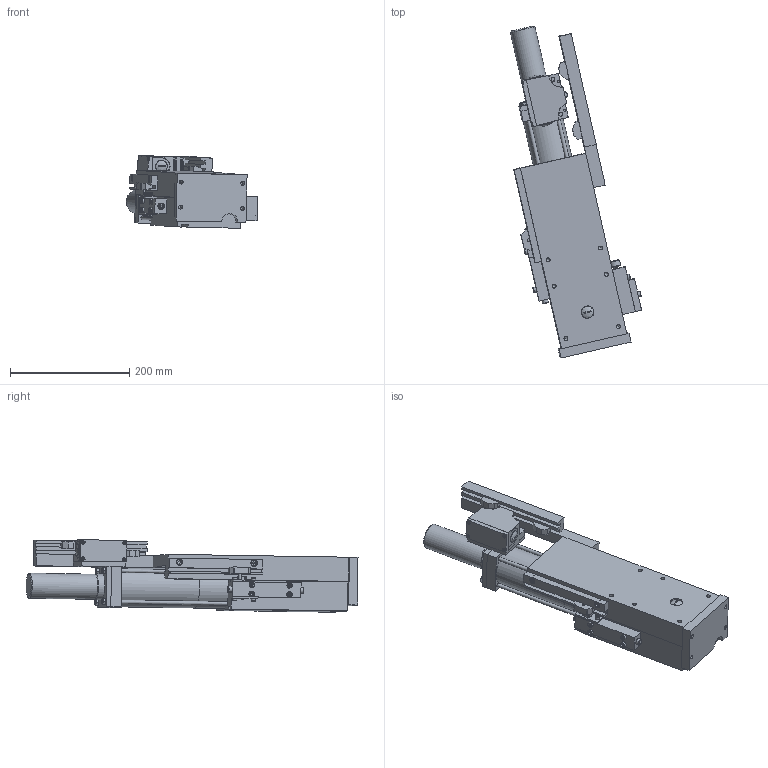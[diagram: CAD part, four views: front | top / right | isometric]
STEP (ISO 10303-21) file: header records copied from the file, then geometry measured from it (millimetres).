
FILE_DESCRIPTION((''),'2;1');
FILE_NAME('C:\VaultWork\Zeichnungen\Maßblätter\H60\VE01520-3-0 Maßblatt Vorschubschlitten H60-110 mit Gewindehülse.stp','2010-06-23T09:57:18',('Test'),(''),'Autodesk Inventor 2008','Autodesk Inventor 2008','');
FILE_SCHEMA(('AUTOMOTIVE_DESIGN { 1 0 10303 214 1 1 1 1 }'));
Length unit declared in the file: millimetre
Products named in the file (1): VE01520-3-0 Maßblatt Vorschubschlitten H60-110 mit Gewindehülse
Bounding box: 219.78 x 555.94 x 121.42 mm (x, y, z)
Volume: 3921162.9 mm3; surface area: 410370.2 mm2
Topology: 12 solids, 12 shells, 723 faces, 1849 edges, 1203 vertices
Faces by surface type: plane 497, cylinder 88, bspline 60, cone 48, torus 29, sphere 1
Full cylindrical faces by diameter (mm): 4 x7, 5.5 x2, 5.9 x2, 6 x10, 6.6 x2, 7 x4, 8.5 x9, 9.98 x2, 10 x8, 15 x2, 17 x1, 18 x1, 20 x3, 42 x1, 44 x1, 66 x2
Entity records: 22045 total; most frequent: CARTESIAN_POINT 5187, ORIENTED_EDGE 3186, DIRECTION 3127, EDGE_CURVE 1593, VERTEX_POINT 1119, VECTOR 1047, LINE 1047, AXIS2_PLACEMENT_3D 1040
